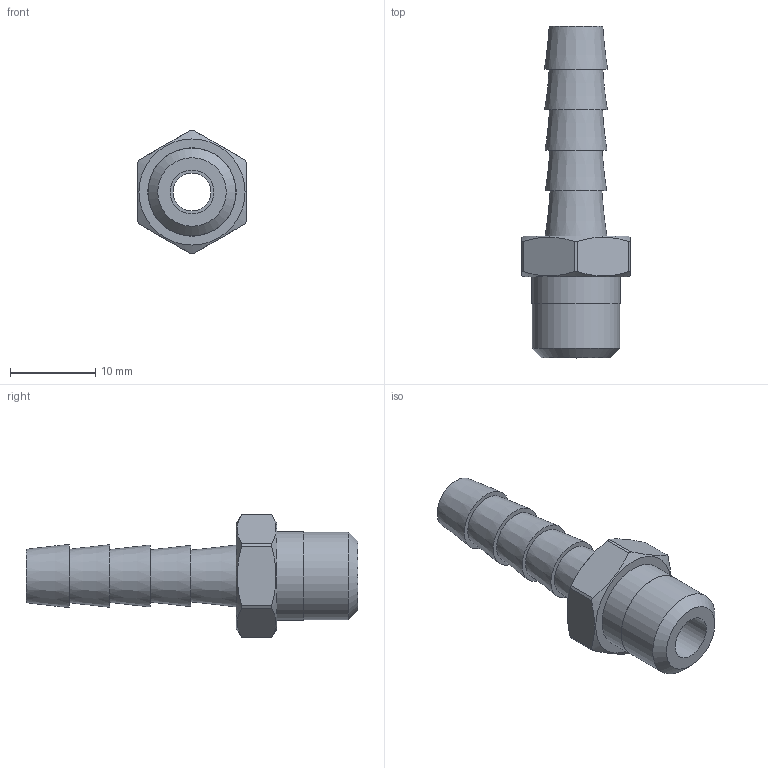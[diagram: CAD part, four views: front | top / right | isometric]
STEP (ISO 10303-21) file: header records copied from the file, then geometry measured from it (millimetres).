
FILE_DESCRIPTION(/* description */ (''),/* implementation_level */ '2;1');
FILE_NAME(/* name */ 'C:/Users/drich/Desktop/MB14-2 v3.step',/* time_stamp */ '2020-02-02T14:53:58-06:00',/* author */ (''),/* organization */ (''),/* preprocessor_version */ 'ST-DEVELOPER v18',/* originating_system */ 'Autodesk Translation Framework v8.12.0.6',/* authorisation */ '');
FILE_SCHEMA (('AUTOMOTIVE_DESIGN { 1 0 10303 214 3 1 1 }'));
Length unit declared in the file: inch
Products named in the file (2): MB14-2; 14 BARB ONLY
Assembly tree (1 placements, depth 2):
  MB14-2
    14 BARB ONLY
Bounding box: 12.7 x 38.91 x 14.48 mm (x, y, z)
Volume: 1634.2 mm3; surface area: 1899.5 mm2
Topology: 2 solids, 2 shells, 35 faces, 92 edges, 66 vertices
Faces by surface type: plane 15, cone 10, cylinder 10
Full cylindrical faces by diameter (mm): 4.445 x1, 5.156 x1, 10.312 x1, 10.363 x1
Entity records: 1191 total; most frequent: CARTESIAN_POINT 220, DIRECTION 210, ORIENTED_EDGE 184, EDGE_CURVE 92, AXIS2_PLACEMENT_3D 92, VERTEX_POINT 66, CIRCLE 54, EDGE_LOOP 44
